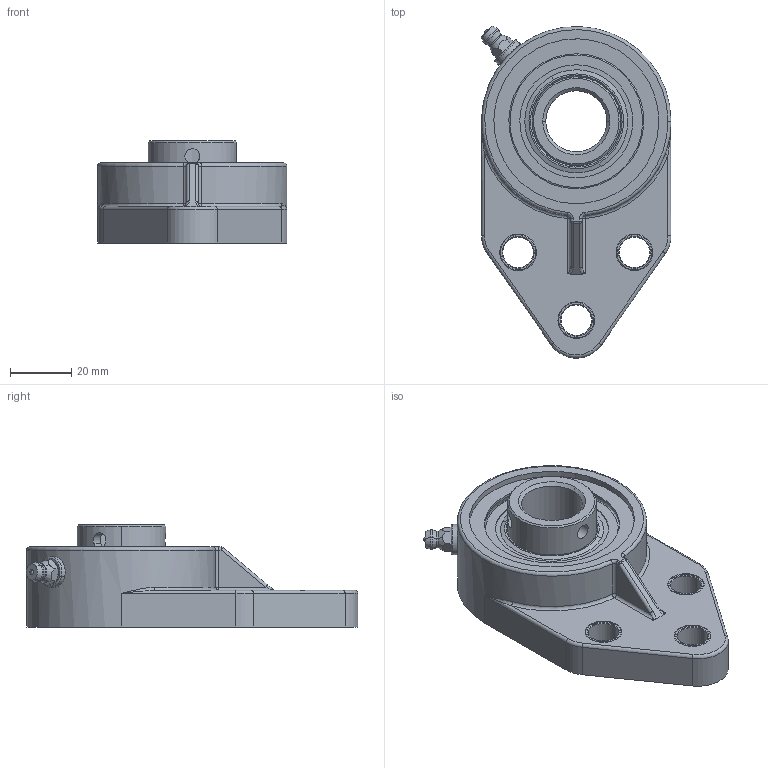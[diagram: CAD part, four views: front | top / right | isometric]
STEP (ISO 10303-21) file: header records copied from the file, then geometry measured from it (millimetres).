
FILE_DESCRIPTION(('CATIA V5 STEP Exchange'),'2;1');
FILE_NAME('X:\CODICI MOVEX\3D per clienti\3D definitivi\Part 800\P81500_01.stp','2016-05-30T06:48:15+00:00',('none'),('none'),'Version 5-6 Release 2012','CATIA V5 STEP AP203','none');
FILE_SCHEMA(('CONFIG_CONTROL_DESIGN'));
Length unit declared in the file: millimetre
Products named in the file (1): P81500_01
Assembly tree (4 placements, depth 2):
  P81500_01
    #58
    #341
    #1239
    #4227
Bounding box: 62.19 x 108.66 x 33.4 mm (x, y, z)
Volume: 75115.4 mm3; surface area: 35218.1 mm2
Topology: 20 solids, 20 shells, 265 faces, 608 edges, 350 vertices
Faces by surface type: cylinder 96, cone 54, plane 48, sphere 34, torus 29, bspline 4
Entity records: 7347 total; most frequent: CARTESIAN_POINT 1999, ORIENTED_EDGE 1120, DIRECTION 857, EDGE_CURVE 560, AXIS2_PLACEMENT_3D 493, VERTEX_POINT 350, EDGE_LOOP 318, CIRCLE 307
